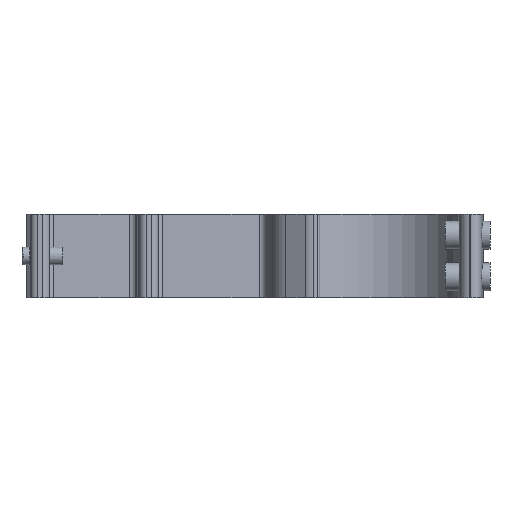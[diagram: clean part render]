
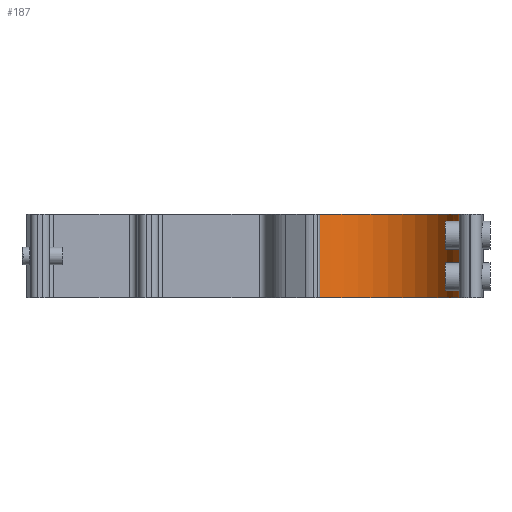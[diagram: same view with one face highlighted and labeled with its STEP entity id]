
A CAD part, left-side view. The second image highlights one B-rep face of the part: STEP entity #187.
In plain terms, the highlighted cylindrical face has radius 12.719 mm (diameter 25.438 mm), a partial arc.
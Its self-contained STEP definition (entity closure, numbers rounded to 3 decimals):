
#187 = ADVANCED_FACE( '', ( #390 ), #391, .F. );
#390 = FACE_OUTER_BOUND( '', #597, .T. );
#391 = CYLINDRICAL_SURFACE( '', #598, 12.719 );
#597 = EDGE_LOOP( '', ( #1111, #1112, #1113, #1114, #1115, #1116, #1117, #1118 ) );
#598 = AXIS2_PLACEMENT_3D( '', #1119, #1120, #1121 );
#1111 = ORIENTED_EDGE( '', *, *, #1228, .F. );
#1112 = ORIENTED_EDGE( '', *, *, #1422, .T. );
#1113 = ORIENTED_EDGE( '', *, *, #1234, .F. );
#1114 = ORIENTED_EDGE( '', *, *, #1419, .T. );
#1115 = ORIENTED_EDGE( '', *, *, #1232, .F. );
#1116 = ORIENTED_EDGE( '', *, *, #1408, .T. );
#1117 = ORIENTED_EDGE( '', *, *, #1428, .T. );
#1118 = ORIENTED_EDGE( '', *, *, #1318, .F. );
#1119 = CARTESIAN_POINT( '', ( -1.757, 16.178, 6. ) );
#1120 = DIRECTION( '', ( 0., 0., 1. ) );
#1121 = DIRECTION( '', ( -1., 0., 0. ) );
#1228 = EDGE_CURVE( '', #1462, #1465, #1466, .T. );
#1232 = EDGE_CURVE( '', #1471, #1473, #1474, .T. );
#1234 = EDGE_CURVE( '', #1475, #1463, #1477, .T. );
#1318 = EDGE_CURVE( '', #1465, #1619, #1620, .T. );
#1408 = EDGE_CURVE( '', #1471, #1742, #1744, .T. );
#1419 = EDGE_CURVE( '', #1475, #1473, #1757, .T. );
#1422 = EDGE_CURVE( '', #1462, #1463, #1760, .T. );
#1428 = EDGE_CURVE( '', #1742, #1619, #1766, .T. );
#1462 = VERTEX_POINT( '', #1808 );
#1463 = VERTEX_POINT( '', #1809 );
#1465 = VERTEX_POINT( '', #1826 );
#1466 = LINE( '', #1827, #1828 );
#1471 = VERTEX_POINT( '', #1834 );
#1473 = VERTEX_POINT( '', #1836 );
#1474 = LINE( '', #1837, #1838 );
#1475 = VERTEX_POINT( '', #1839 );
#1477 = LINE( '', #1856, #1857 );
#1619 = VERTEX_POINT( '', #2046 );
#1620 = CIRCLE( '', #2047, 12.719 );
#1742 = VERTEX_POINT( '', #2323 );
#1744 = CIRCLE( '', #2325, 12.719 );
#1757 = B_SPLINE_CURVE_WITH_KNOTS( '', 3, ( #2341, #2342, #2343, #2344, #2345, #2346, #2347, #2348, #2349, #2350, #2351, #2352, #2353, #2354, #2355, #2356, #2357, #2358, #2359, #2360, #2361, #2362, #2363, #2364, #2365, #2366, #2367, #2368, #2369, #2370, #2371, #2372, #2373, #2374 ), .UNSPECIFIED., .F., .F., ( 4, 2, 2, 2, 2, 2, 2, 2, 2, 2, 2, 2, 2, 2, 2, 2, 4 ), ( 0., 0.001, 0.001, 0.002, 0.002, 0.003, 0.003, 0.004, 0.005, 0.005, 0.006, 0.006, 0.007, 0.008, 0.008, 0.009, 0.009 ), .UNSPECIFIED. );
#1760 = B_SPLINE_CURVE_WITH_KNOTS( '', 3, ( #2377, #2378, #2379, #2380, #2381, #2382, #2383, #2384, #2385, #2386, #2387, #2388, #2389, #2390, #2391, #2392, #2393, #2394, #2395, #2396, #2397, #2398, #2399, #2400, #2401, #2402, #2403, #2404, #2405, #2406, #2407, #2408 ), .UNSPECIFIED., .F., .F., ( 4, 2, 2, 2, 2, 2, 2, 2, 2, 2, 2, 2, 2, 2, 2, 4 ), ( 0.011, 0.012, 0.012, 0.013, 0.014, 0.014, 0.015, 0.016, 0.016, 0.017, 0.017, 0.018, 0.019, 0.019, 0.02, 0.02 ), .UNSPECIFIED. );
#1766 = LINE( '', #2414, #2415 );
#1808 = CARTESIAN_POINT( '', ( -3.233, 3.545, -4.442 ) );
#1809 = CARTESIAN_POINT( '', ( -3.233, 3.545, -1.558 ) );
#1826 = CARTESIAN_POINT( '', ( -3.233, 3.545, -6. ) );
#1827 = CARTESIAN_POINT( '', ( -3.233, 3.545, 6. ) );
#1828 = VECTOR( '', #2440, 1000. );
#1834 = CARTESIAN_POINT( '', ( -3.233, 3.545, 6. ) );
#1836 = CARTESIAN_POINT( '', ( -3.233, 3.545, 4.442 ) );
#1837 = CARTESIAN_POINT( '', ( -3.233, 3.545, 6. ) );
#1838 = VECTOR( '', #2448, 1000. );
#1839 = CARTESIAN_POINT( '', ( -3.233, 3.545, 1.558 ) );
#1856 = CARTESIAN_POINT( '', ( -3.233, 3.545, 6. ) );
#1857 = VECTOR( '', #2449, 1000. );
#2046 = CARTESIAN_POINT( '', ( 6.967, 25.433, -6. ) );
#2047 = AXIS2_PLACEMENT_3D( '', #2545, #2546, #2547 );
#2323 = CARTESIAN_POINT( '', ( 6.967, 25.433, 6. ) );
#2325 = AXIS2_PLACEMENT_3D( '', #2659, #2660, #2661 );
#2341 = CARTESIAN_POINT( '', ( -3.233, 3.545, 1.558 ) );
#2342 = CARTESIAN_POINT( '', ( -3.092, 3.528, 1.422 ) );
#2343 = CARTESIAN_POINT( '', ( -2.935, 3.512, 1.31 ) );
#2344 = CARTESIAN_POINT( '', ( -2.588, 3.485, 1.132 ) );
#2345 = CARTESIAN_POINT( '', ( -2.402, 3.474, 1.068 ) );
#2346 = CARTESIAN_POINT( '', ( -2.019, 3.46, 0.998 ) );
#2347 = CARTESIAN_POINT( '', ( -1.821, 3.458, 0.991 ) );
#2348 = CARTESIAN_POINT( '', ( -1.435, 3.461, 1.033 ) );
#2349 = CARTESIAN_POINT( '', ( -1.242, 3.468, 1.084 ) );
#2350 = CARTESIAN_POINT( '', ( -0.886, 3.488, 1.236 ) );
#2351 = CARTESIAN_POINT( '', ( -0.716, 3.501, 1.34 ) );
#2352 = CARTESIAN_POINT( '', ( -0.418, 3.529, 1.588 ) );
#2353 = CARTESIAN_POINT( '', ( -0.287, 3.544, 1.735 ) );
#2354 = CARTESIAN_POINT( '', ( -0.072, 3.57, 2.059 ) );
#2355 = CARTESIAN_POINT( '', ( 0.011, 3.582, 2.236 ) );
#2356 = CARTESIAN_POINT( '', ( 0.124, 3.599, 2.611 ) );
#2357 = CARTESIAN_POINT( '', ( 0.152, 3.603, 2.803 ) );
#2358 = CARTESIAN_POINT( '', ( 0.152, 3.603, 3.195 ) );
#2359 = CARTESIAN_POINT( '', ( 0.124, 3.599, 3.389 ) );
#2360 = CARTESIAN_POINT( '', ( 0.012, 3.582, 3.762 ) );
#2361 = CARTESIAN_POINT( '', ( -0.072, 3.57, 3.941 ) );
#2362 = CARTESIAN_POINT( '', ( -0.286, 3.544, 4.264 ) );
#2363 = CARTESIAN_POINT( '', ( -0.418, 3.529, 4.412 ) );
#2364 = CARTESIAN_POINT( '', ( -0.715, 3.501, 4.66 ) );
#2365 = CARTESIAN_POINT( '', ( -0.885, 3.488, 4.764 ) );
#2366 = CARTESIAN_POINT( '', ( -1.241, 3.468, 4.916 ) );
#2367 = CARTESIAN_POINT( '', ( -1.433, 3.462, 4.966 ) );
#2368 = CARTESIAN_POINT( '', ( -1.82, 3.458, 5.009 ) );
#2369 = CARTESIAN_POINT( '', ( -2.017, 3.46, 5.002 ) );
#2370 = CARTESIAN_POINT( '', ( -2.401, 3.474, 4.932 ) );
#2371 = CARTESIAN_POINT( '', ( -2.586, 3.485, 4.869 ) );
#2372 = CARTESIAN_POINT( '', ( -2.934, 3.512, 4.691 ) );
#2373 = CARTESIAN_POINT( '', ( -3.092, 3.528, 4.578 ) );
#2374 = CARTESIAN_POINT( '', ( -3.233, 3.545, 4.442 ) );
#2377 = CARTESIAN_POINT( '', ( -3.233, 3.545, -4.442 ) );
#2378 = CARTESIAN_POINT( '', ( -3.094, 3.529, -4.576 ) );
#2379 = CARTESIAN_POINT( '', ( -2.933, 3.512, -4.691 ) );
#2380 = CARTESIAN_POINT( '', ( -2.588, 3.485, -4.868 ) );
#2381 = CARTESIAN_POINT( '', ( -2.402, 3.474, -4.932 ) );
#2382 = CARTESIAN_POINT( '', ( -1.824, 3.453, -5.038 ) );
#2383 = CARTESIAN_POINT( '', ( -1.42, 3.458, -4.992 ) );
#2384 = CARTESIAN_POINT( '', ( -0.883, 3.488, -4.762 ) );
#2385 = CARTESIAN_POINT( '', ( -0.716, 3.501, -4.661 ) );
#2386 = CARTESIAN_POINT( '', ( -0.416, 3.529, -4.41 ) );
#2387 = CARTESIAN_POINT( '', ( -0.287, 3.544, -4.266 ) );
#2388 = CARTESIAN_POINT( '', ( -0.071, 3.571, -3.939 ) );
#2389 = CARTESIAN_POINT( '', ( 0.011, 3.582, -3.762 ) );
#2390 = CARTESIAN_POINT( '', ( 0.124, 3.599, -3.389 ) );
#2391 = CARTESIAN_POINT( '', ( 0.152, 3.603, -3.194 ) );
#2392 = CARTESIAN_POINT( '', ( 0.152, 3.603, -2.805 ) );
#2393 = CARTESIAN_POINT( '', ( 0.123, 3.598, -2.608 ) );
#2394 = CARTESIAN_POINT( '', ( 0.011, 3.582, -2.237 ) );
#2395 = CARTESIAN_POINT( '', ( -0.073, 3.57, -2.057 ) );
#2396 = CARTESIAN_POINT( '', ( -0.287, 3.544, -1.734 ) );
#2397 = CARTESIAN_POINT( '', ( -0.419, 3.529, -1.587 ) );
#2398 = CARTESIAN_POINT( '', ( -0.718, 3.501, -1.339 ) );
#2399 = CARTESIAN_POINT( '', ( -0.885, 3.487, -1.236 ) );
#2400 = CARTESIAN_POINT( '', ( -1.244, 3.468, -1.083 ) );
#2401 = CARTESIAN_POINT( '', ( -1.432, 3.462, -1.034 ) );
#2402 = CARTESIAN_POINT( '', ( -1.823, 3.458, -0.991 ) );
#2403 = CARTESIAN_POINT( '', ( -2.017, 3.46, -0.998 ) );
#2404 = CARTESIAN_POINT( '', ( -2.402, 3.474, -1.068 ) );
#2405 = CARTESIAN_POINT( '', ( -2.587, 3.485, -1.132 ) );
#2406 = CARTESIAN_POINT( '', ( -2.933, 3.512, -1.309 ) );
#2407 = CARTESIAN_POINT( '', ( -3.094, 3.529, -1.424 ) );
#2408 = CARTESIAN_POINT( '', ( -3.233, 3.545, -1.558 ) );
#2414 = CARTESIAN_POINT( '', ( 6.967, 25.433, 6. ) );
#2415 = VECTOR( '', #2674, 1000. );
#2440 = DIRECTION( '', ( 0., 0., -1. ) );
#2448 = DIRECTION( '', ( 0., 0., -1. ) );
#2449 = DIRECTION( '', ( 0., 0., -1. ) );
#2545 = CARTESIAN_POINT( '', ( -1.757, 16.178, -6. ) );
#2546 = DIRECTION( '', ( 0., 0., 1. ) );
#2547 = DIRECTION( '', ( 1., 0., 0. ) );
#2659 = CARTESIAN_POINT( '', ( -1.757, 16.178, 6. ) );
#2660 = DIRECTION( '', ( 0., 0., 1. ) );
#2661 = DIRECTION( '', ( 1., 0., 0. ) );
#2674 = DIRECTION( '', ( 0., 0., -1. ) );
